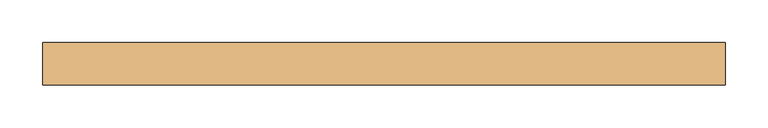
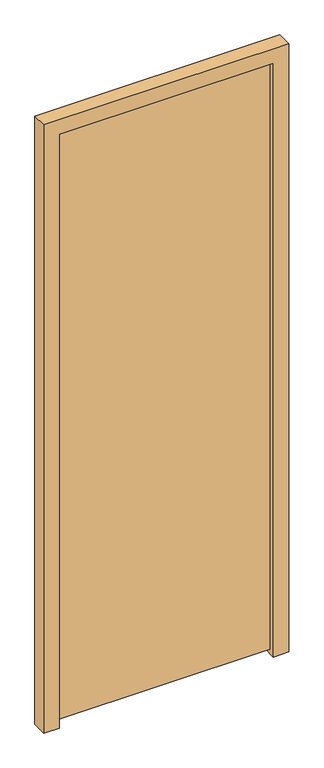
"""IFC4 building model written with IfcOpenShell, lengths in millimetres: door geometry, Dr_Дверь_v2.1 : ДВДГ 21-8_выполняется собственником."""

import ifcopenshell
import ifcopenshell.guid

model = None  # the IFC model being written
_history = None  # IfcOwnerHistory: only IFC2X3 demands one
_inside = {}  # id of a spatial element -> (the spatial element, [elements in it])
_under = {}  # id of a project, library or spatial element -> (it, [spatial elements below it])
_declared = {}  # id of a project -> (the project, [libraries it declares])
_typed = {}  # id of a type object -> (the type object, [elements of that type])
_made_of = {}  # id of a material, layer set ... -> (it, [elements and type objects made of it])


def new_model(schema):
    """Start an empty IFC model of exactly this schema.

    Asked for "IFC4X3", IfcOpenShell would pick the latest addendum, in which some entities
    have other attributes; the version numbers below select the first issue.
    IFC2X3 requires an IfcOwnerHistory on every rooted entity: one is made here for all.
    """
    global model, _history
    if schema == "IFC4X3":
        model = ifcopenshell.file(schema_version=(4, 3, 0, 0))
    else:
        model = ifcopenshell.file(schema=schema)
    _inside.clear()
    _under.clear()
    _declared.clear()
    _typed.clear()
    _made_of.clear()
    _history = None
    if model.schema == "IFC2X3":
        org = make("IfcOrganization", Name="unknown")
        user = make(
            "IfcPersonAndOrganization",
            ThePerson=make("IfcPerson", FamilyName="unknown"),
            TheOrganization=org,
        )
        app = make(
            "IfcApplication",
            ApplicationDeveloper=org,
            Version="unknown",
            ApplicationFullName="unknown",
            ApplicationIdentifier="unknown",
        )
        _history = make(
            "IfcOwnerHistory",
            OwningUser=user,
            OwningApplication=app,
            ChangeAction="ADDED",
            CreationDate=0,
        )
    return model


def make(cls, **values):
    """One entity of the class cls with the attributes given. An attribute that is None is left unset."""
    return model.create_entity(
        cls, **{name: value for name, value in values.items() if value is not None}
    )


def rooted(cls, **values):
    """An entity with a GlobalId (a new one), such as an element, a storey or a relation."""
    return make(cls, GlobalId=ifcopenshell.guid.new(), OwnerHistory=_history, **values)


def si_unit(unit_type, name, prefix=None):
    """IfcSIUnit, for example si_unit("LENGTHUNIT", "METRE", prefix="MILLI")."""
    return make("IfcSIUnit", UnitType=unit_type, Prefix=prefix, Name=name)


def assignment(units):
    """IfcUnitAssignment: the units of a project."""
    return None if units is None else make("IfcUnitAssignment", Units=units)


def point(xyz):
    """IfcCartesianPoint."""
    return None if xyz is None else make("IfcCartesianPoint", Coordinates=xyz)


def direction(xyz):
    """IfcDirection."""
    return None if xyz is None else make("IfcDirection", DirectionRatios=xyz)


def frame(location, z_axis=None, x_axis=None):
    """IfcAxis2Placement3D, a coordinate frame: its origin and axes. An axis left out is left unset."""
    return make(
        "IfcAxis2Placement3D",
        Location=point(location),
        Axis=direction(z_axis),
        RefDirection=direction(x_axis),
    )


def origin():
    """The frame at (0, 0, 0) with its axes left unset."""
    return frame((0.0, 0.0, 0.0))


def place(relative_to, where):
    """IfcLocalPlacement: puts the frame where relative to a parent placement (None: the world)."""
    return make(
        "IfcLocalPlacement", PlacementRelTo=relative_to, RelativePlacement=where
    )


def context(
    kind, dimensions, precision=None, world=None, true_north=None, identifier=None
):
    """IfcGeometricRepresentationContext, for example the 3D "Model" context."""
    return make(
        "IfcGeometricRepresentationContext",
        ContextIdentifier=identifier,
        ContextType=kind,
        CoordinateSpaceDimension=dimensions,
        Precision=precision,
        WorldCoordinateSystem=world,
        TrueNorth=true_north,
    )


def project(units=None, contexts=None):
    """IfcProject with its units and contexts."""
    return rooted(
        "IfcProject",
        Name="project",
        RepresentationContexts=contexts,
        UnitsInContext=assignment(units),
    )


def spatial(cls, under=None, at=None, **own):
    """A site, building, storey or space (cls), placed at a placement, below another one or the project."""
    s = rooted(cls, ObjectPlacement=at, **own)
    if under is not None:
        _under.setdefault(under.id(), (under, []))[1].append(s)
    return s


def polyline(points):
    """IfcPolyline through the points."""
    return make("IfcPolyline", Points=[point(p) for p in points])


def outline(outer, holes=None, kind="AREA"):
    """IfcArbitraryClosedProfileDef: a profile drawn as a closed curve; with holes, ...WithVoids."""
    if holes is None:
        return make("IfcArbitraryClosedProfileDef", ProfileType=kind, OuterCurve=outer)
    return make(
        "IfcArbitraryProfileDefWithVoids",
        ProfileType=kind,
        OuterCurve=outer,
        InnerCurves=holes,
    )


def extrude(swept, where, along, depth):
    """IfcExtrudedAreaSolid: the profile swept, set in the frame where, extruded along a direction by depth."""
    return make(
        "IfcExtrudedAreaSolid",
        SweptArea=swept,
        Position=where,
        ExtrudedDirection=direction(along),
        Depth=depth,
    )


def shape(context_of_items, identifier, shape_type, items):
    """IfcShapeRepresentation: the items that make up one representation, for example the "Body"."""
    return make(
        "IfcShapeRepresentation",
        ContextOfItems=context_of_items,
        RepresentationIdentifier=identifier,
        RepresentationType=shape_type,
        Items=items,
    )


def source(mapping_origin, context_of_items, identifier, shape_type, items):
    """IfcRepresentationMap: a shape defined once, which mapped items show again and again."""
    return make(
        "IfcRepresentationMap",
        MappingOrigin=mapping_origin,
        MappedRepresentation=shape(context_of_items, identifier, shape_type, items),
    )


def transform(
    local_origin,
    x_axis=None,
    y_axis=None,
    z_axis=None,
    scale=None,
    scale2=None,
    scale3=None,
    uniform=True,
):
    """IfcCartesianTransformationOperator3D, or its non-uniform kind. x_axis, y_axis, z_axis: its Axis1, 2, 3."""
    if uniform:
        return make(
            "IfcCartesianTransformationOperator3D",
            Axis1=direction(x_axis),
            Axis2=direction(y_axis),
            LocalOrigin=point(local_origin),
            Scale=scale,
            Axis3=direction(z_axis),
        )
    return make(
        "IfcCartesianTransformationOperator3DnonUniform",
        Axis1=direction(x_axis),
        Axis2=direction(y_axis),
        LocalOrigin=point(local_origin),
        Scale=scale,
        Axis3=direction(z_axis),
        Scale2=scale2,
        Scale3=scale3,
    )


def mapped(mapping_source, mapping_target):
    """IfcMappedItem: shows the shape of a source again, moved by a transform."""
    return make(
        "IfcMappedItem", MappingSource=mapping_source, MappingTarget=mapping_target
    )


def made_of(thing, what):
    """Note that an element or type object is made of a material, layer set ...; save() writes the relation."""
    if what is not None:
        _made_of.setdefault(what.id(), (what, []))[1].append(thing)
    return thing


def element(
    cls,
    number,
    at=None,
    inside=None,
    cuts=None,
    type_object=None,
    material=None,
    context=None,
    identifier="Body",
    shape_type=None,
    held_by="IfcProductDefinitionShape",
    body=None,
    shapes=None,
    **own,
):
    """One element of the class cls, such as IfcWall. Its Tag is "e" and its number.

    at: its placement. inside: the storey or other place that contains it. cuts: it is an
    opening in that element (IfcRelVoidsElement). A single representation is given by context,
    identifier, shape_type and body (its items); several are given by shapes. held_by: the class
    of the entity that holds the representations. save() writes the other relations.
    """
    e = rooted(cls, Tag="e%d" % number, ObjectPlacement=at, **own)
    if body is not None:
        shapes = [shape(context, identifier, shape_type, body)]
    if shapes is not None:
        e.Representation = make(held_by, Representations=shapes)
    if inside is not None:
        _inside.setdefault(inside.id(), (inside, []))[1].append(e)
    if cuts is not None:
        rooted(
            "IfcRelVoidsElement", RelatingBuildingElement=cuts, RelatedOpeningElement=e
        )
    if type_object is not None:
        _typed.setdefault(type_object.id(), (type_object, []))[1].append(e)
    return made_of(e, material)


def aggregate(whole, parts):
    """IfcRelAggregates: a whole, such as a stair, and the parts it consists of."""
    return rooted("IfcRelAggregates", RelatingObject=whole, RelatedObjects=parts)


def save(model, path):
    """Write the relations noted so far, then the file.

    IfcRelAggregates (storeys below a building ...), IfcRelContainedInSpatialStructure (elements
    in a storey), IfcRelDefinesByType, IfcRelAssociatesMaterial and IfcRelDeclares: one each for
    every whole, place, type object, material and project.
    """
    for whole, parts in _under.values():
        aggregate(whole, parts)
    for where, things in _inside.values():
        rooted(
            "IfcRelContainedInSpatialStructure",
            RelatedElements=things,
            RelatingStructure=where,
        )
    for kind, things in _typed.values():
        rooted("IfcRelDefinesByType", RelatedObjects=things, RelatingType=kind)
    for what, things in _made_of.values():
        rooted("IfcRelAssociatesMaterial", RelatedObjects=things, RelatingMaterial=what)
    for by, libraries in _declared.values():
        rooted("IfcRelDeclares", RelatingContext=by, RelatedDefinitions=libraries)
    model.write(path)


def door_e21d8083(model_context):
    return source(origin(), model_context, "Body", "SweptSolid", [
        extrude(outline(polyline([(0.0, -275.0), (0.0, -225.0), (2050.0, -225.0), (2050.0, 475.0), (0.0, 475.0), (0.0, 525.0), (2100.0, 525.0), (2100.0, -275.0), (0.0, -275.0)])), frame((0.0, 12.5, 0.0), z_axis=(0.0, 1.0, 0.0), x_axis=(0.0, 0.0, 1.0)), (0.0, 0.0, 1.0), 50.0),
        extrude(outline(polyline([(-225.0, 32.5), (-225.0, 62.5), (475.0, 62.5), (475.0, 32.5), (-225.0, 32.5)])), frame((0.0, 0.0, 14.0), z_axis=(0.0, 0.0, 1.0), x_axis=(1.0, 0.0, 0.0)), (0.0, 0.0, 1.0), 2036.0),
    ])


if __name__ == "__main__":
    model = new_model("IFC4")
    model_context = context("Model", 3, world=origin())
    ifc_project = project(units=[si_unit("LENGTHUNIT", "METRE", prefix="MILLI")], contexts=[model_context])
    site = spatial("IfcSite", under=ifc_project)
    building = spatial("IfcBuilding", under=site)
    placement = place(None, origin())
    door_shape = door_e21d8083(model_context)
    element("IfcDoor", 1, ObjectType="Dr_Дверь_v2.1 : ДВДГ 21-8_выполняется собственником", at=placement, inside=building, context=model_context, shape_type="MappedRepresentation", body=[
        mapped(door_shape, transform((0.0, 0.0, 0.0), x_axis=(1.0, 0.0, 0.0), y_axis=(0.0, 1.0, 0.0), z_axis=(0.0, 0.0, 1.0))),
    ])
    save(model, "model.ifc")
